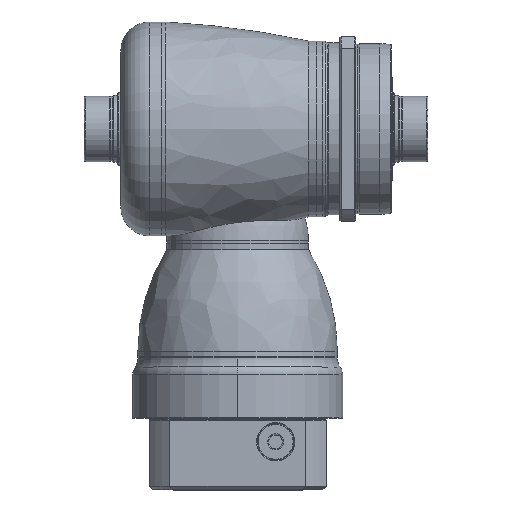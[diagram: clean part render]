
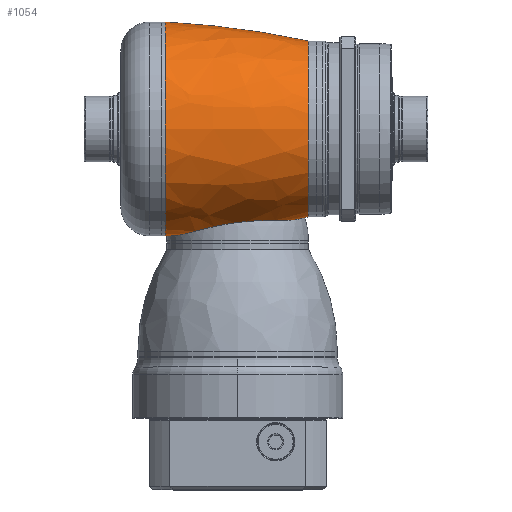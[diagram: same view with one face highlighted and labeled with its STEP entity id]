
A CAD part, top view. The second image highlights one B-rep face of the part: STEP entity #1054.
In plain terms, the highlighted free-form (B-spline) face has degree [3, 3] with [7, 4] control points.
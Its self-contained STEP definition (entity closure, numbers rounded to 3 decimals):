
#115=CARTESIAN_POINT('',(-92.521,617.494,
0.));
#116=DIRECTION('',(0.,0.,-1.));
#117=DIRECTION('',(0.064,-0.998,0.));
#118=AXIS2_PLACEMENT_3D('',#115,#116,#117);
#120=CARTESIAN_POINT('',(-92.521,617.494,
0.));
#121=DIRECTION('',(0.,0.,-1.));
#122=DIRECTION('',(0.209,-0.978,0.));
#123=AXIS2_PLACEMENT_3D('',#120,#121,#122);
#130=CARTESIAN_POINT('',(-92.521,-617.494,
0.));
#131=DIRECTION('',(0.,0.,1.));
#132=DIRECTION('',(0.209,0.978,0.));
#133=AXIS2_PLACEMENT_3D('',#130,#131,#132);
#155=CARTESIAN_POINT('',(-55.,81.498,0.556));
#157=CARTESIAN_POINT('',(-55.,0.,0.));
#158=DIRECTION('',(1.,0.,0.));
#159=DIRECTION('',(0.,1.,0.007));
#160=AXIS2_PLACEMENT_3D('',#157,#158,#159);
#351=CARTESIAN_POINT('',(-54.763,81.487,
0.));
#352=CARTESIAN_POINT('',(-54.763,81.487,0.104));
#353=CARTESIAN_POINT('',(-54.805,81.489,0.311));
#354=CARTESIAN_POINT('',(-54.925,81.495,0.485));
#355=CARTESIAN_POINT('',(-55.,81.498,0.556));
#357=CARTESIAN_POINT('',(54.,0.,0.));
#358=DIRECTION('',(1.,0.,0.));
#359=DIRECTION('',(0.,1.,0.));
#360=AXIS2_PLACEMENT_3D('',#357,#358,#359);
#362=CARTESIAN_POINT('',(-47.703,-81.07,0.));
#363=CARTESIAN_POINT('',(-46.711,-81.006,1.883));
#364=CARTESIAN_POINT('',(-44.473,-80.728,5.573));
#365=CARTESIAN_POINT('',(-40.271,-79.881,10.825));
#366=CARTESIAN_POINT('',(-35.457,-78.725,15.432));
#367=CARTESIAN_POINT('',(-30.052,-77.36,19.386));
#368=CARTESIAN_POINT('',(-24.133,-75.891,22.612));
#369=CARTESIAN_POINT('',(-17.681,-74.404,25.078));
#370=CARTESIAN_POINT('',(-10.911,-73.028,26.68));
#371=CARTESIAN_POINT('',(-3.939,-71.853,27.373));
#372=CARTESIAN_POINT('',(2.54,-70.989,27.228));
#373=CARTESIAN_POINT('',(9.265,-70.327,26.29));
#374=CARTESIAN_POINT('',(15.865,-69.908,24.519));
#375=CARTESIAN_POINT('',(22.183,-69.694,21.955));
#376=CARTESIAN_POINT('',(27.994,-69.62,18.707));
#377=CARTESIAN_POINT('',(33.264,-69.595,14.827));
#378=CARTESIAN_POINT('',(37.917,-69.53,10.394));
#379=CARTESIAN_POINT('',(41.953,-69.326,5.394));
#380=CARTESIAN_POINT('',(44.113,-69.043,1.827));
#381=CARTESIAN_POINT('',(45.059,-68.853,
0.));
#489=CARTESIAN_POINT('',(54.,67.,0.));
#491=VERTEX_POINT('',#489);
#493=CARTESIAN_POINT('',(54.,-67.,0.));
#495=VERTEX_POINT('',#493);
#496=CARTESIAN_POINT('',(45.059,-68.853,
0.));
#497=VERTEX_POINT('',#496);
#498=CARTESIAN_POINT('',(-47.703,-81.07,
0.));
#499=CARTESIAN_POINT('',(-55.,-81.5,0.));
#500=VERTEX_POINT('',#498);
#501=VERTEX_POINT('',#499);
#534=VERTEX_POINT('',#155);
#539=VERTEX_POINT('',#351);
#1015=CARTESIAN_POINT('',(-57.198,81.453,
-5.125));
#1016=CARTESIAN_POINT('',(-19.046,79.53,
-5.004));
#1017=CARTESIAN_POINT('',(18.822,74.502,-4.687));
#1018=CARTESIAN_POINT('',(56.152,66.405,-4.178));
#1019=CARTESIAN_POINT('',(-57.198,84.607,45.002));
#1020=CARTESIAN_POINT('',(-19.046,82.609,43.939));
#1021=CARTESIAN_POINT('',(18.822,77.387,41.161));
#1022=CARTESIAN_POINT('',(56.152,68.976,36.687));
#1023=CARTESIAN_POINT('',(-57.198,50.225,81.615));
#1024=CARTESIAN_POINT('',(-19.046,49.039,79.687));
#1025=CARTESIAN_POINT('',(18.822,45.939,74.649));
#1026=CARTESIAN_POINT('',(56.152,40.946,66.536));
#1027=CARTESIAN_POINT('',(-57.198,0.,
81.615));
#1028=CARTESIAN_POINT('',(-19.046,0.,
79.687));
#1029=CARTESIAN_POINT('',(18.822,0.,
74.649));
#1030=CARTESIAN_POINT('',(56.152,0.,
66.536));
#1031=CARTESIAN_POINT('',(-57.198,-50.225,
81.615));
#1032=CARTESIAN_POINT('',(-19.046,-49.039,
79.687));
#1033=CARTESIAN_POINT('',(18.822,-45.939,74.649));
#1034=CARTESIAN_POINT('',(56.152,-40.946,66.536));
#1035=CARTESIAN_POINT('',(-57.198,-84.607,
45.002));
#1036=CARTESIAN_POINT('',(-19.046,-82.609,
43.939));
#1037=CARTESIAN_POINT('',(18.822,-77.387,41.161));
#1038=CARTESIAN_POINT('',(56.152,-68.976,36.687));
#1039=CARTESIAN_POINT('',(-57.198,-81.453,
-5.125));
#1040=CARTESIAN_POINT('',(-19.046,-79.53,
-5.004));
#1041=CARTESIAN_POINT('',(18.822,-74.502,
-4.687));
#1042=CARTESIAN_POINT('',(56.152,-66.405,
-4.178));
#1043=(BOUNDED_SURFACE()B_SPLINE_SURFACE(3,3,((#1015,#1016,#1017,#1018),(#1019,
#1020,#1021,#1022),(#1023,#1024,#1025,#1026),(#1027,#1028,#1029,#1030),(#1031,
#1032,#1033,#1034),(#1035,#1036,#1037,#1038),(#1039,#1040,#1041,#1042)),
.UNSPECIFIED.,.F.,.F.,.F.)B_SPLINE_SURFACE_WITH_KNOTS((4,3,4),(4,4),(0.,1.,
2.),(0.,1.),.UNSPECIFIED.)GEOMETRIC_REPRESENTATION_ITEM()RATIONAL_B_SPLINE_SURFACE(((1.189,1.187,1.187,1.189),(
0.939,0.937,0.937,0.939),(
0.939,0.937,0.937,0.939),(
1.189,1.187,1.187,1.189),(
0.939,0.937,0.937,0.939),(
0.939,0.937,0.937,0.939),(
1.189,1.187,1.187,1.189)))REPRESENTATION_ITEM('')SURFACE());
#1044=ORIENTED_EDGE('',*,*,#668,.F.);
#1045=ORIENTED_EDGE('',*,*,#649,.F.);
#1046=ORIENTED_EDGE('',*,*,#998,.T.);
#1047=ORIENTED_EDGE('',*,*,#645,.T.);
#1049=ORIENTED_EDGE('',*,*,#1048,.F.);
#1050=ORIENTED_EDGE('',*,*,#638,.T.);
#1051=ORIENTED_EDGE('',*,*,#681,.F.);
#1052=EDGE_LOOP('',(#1044,#1045,#1046,#1047,#1049,#1050,#1051));
#1053=FACE_OUTER_BOUND('',#1052,.F.);
#1054=ADVANCED_FACE('',(#1053),#1043,.T.);
#119=CIRCLE('',#118,700.);
#124=CIRCLE('',#123,700.);
#134=CIRCLE('',#133,700.);
#161=CIRCLE('',#160,81.5);
#356=B_SPLINE_CURVE_WITH_KNOTS('',3,(#351,#352,#353,#354,#355),.UNSPECIFIED.,
.F.,.F.,(4,1,4),(0.,0.5,1.),.UNSPECIFIED.);
#361=CIRCLE('',#360,67.);
#382=B_SPLINE_CURVE_WITH_KNOTS('',3,(#362,#363,#364,#365,#366,#367,#368,#369,
#370,#371,#372,#373,#374,#375,#376,#377,#378,#379,#380,#381),.UNSPECIFIED.,.F.,
.F.,(4,1,1,1,1,1,1,1,1,1,1,1,1,1,1,1,1,4),(0.,0.059,
0.118,0.176,0.235,0.294,
0.353,0.412,0.471,0.529,
0.588,0.647,0.706,0.765,
0.824,0.882,0.941,1.),.UNSPECIFIED.);
#638=EDGE_CURVE('',#500,#501,#119,.T.);
#645=EDGE_CURVE('',#495,#497,#124,.T.);
#649=EDGE_CURVE('',#491,#539,#134,.T.);
#668=EDGE_CURVE('',#539,#534,#356,.T.);
#681=EDGE_CURVE('',#534,#501,#161,.T.);
#998=EDGE_CURVE('',#491,#495,#361,.T.);
#1048=EDGE_CURVE('',#500,#497,#382,.T.);
